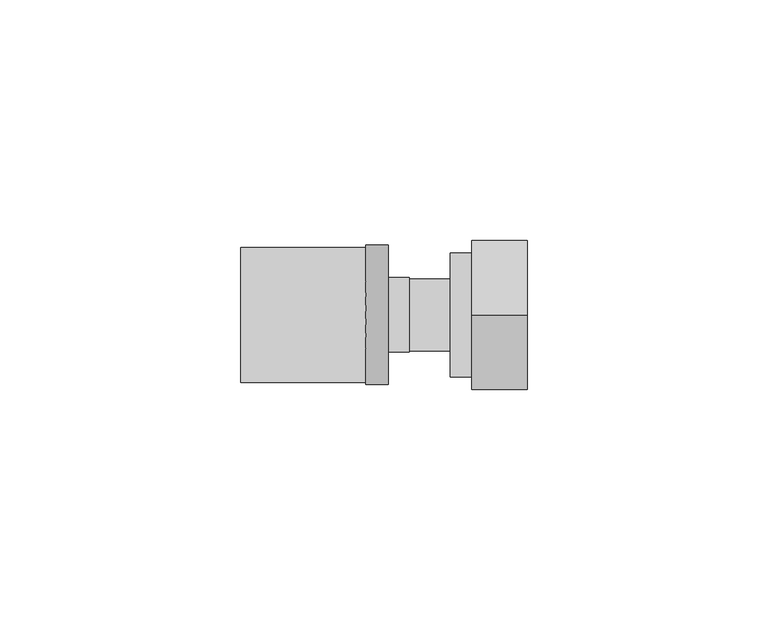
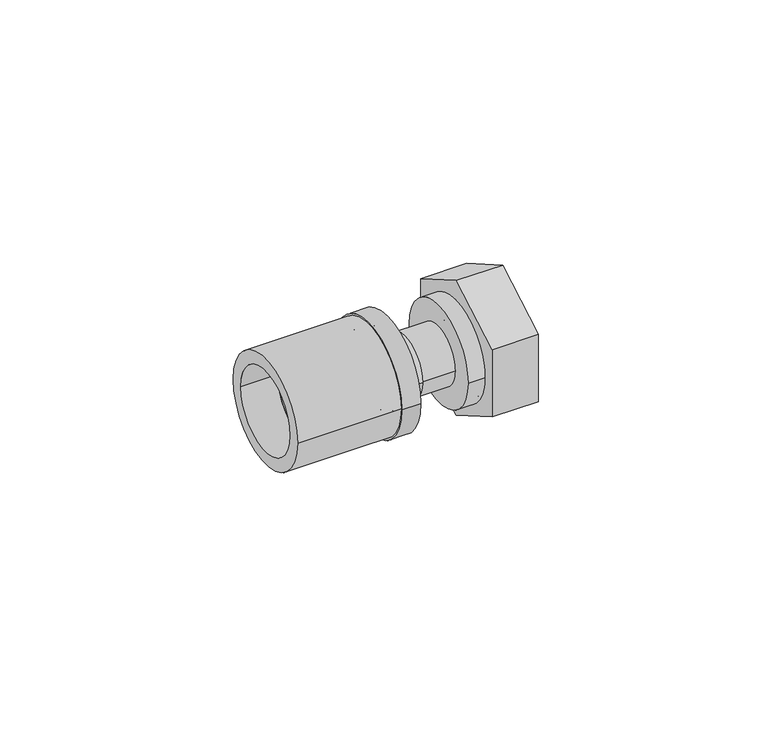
"""IFC4 building model written with IfcOpenShell, lengths in millimetres: pipe fitting geometry, FASTLOC_Adapter with union nut LX : FSL A union nut CZ."""

from ifc_helpers import new_model, si_unit, point, frame, origin, origin_2d, place, context, project, spatial, polyline, circle_curve, trimmed, segment, composite_curve, outline, extrude, source, transform, mapped, element, save
from ifc_brep_helpers import plane_surface, cylinder_surface, revolved_surface, advanced_brep


def pipe_fitting_d52baa13(model_context):
    return source(origin(), model_context, "Body", "SolidModel", [
        extrude(outline(composite_curve([segment(trimmed(circle_curve(origin_2d(), 14.0), [point((14.0, 0.0))], [point((-14.0, 0.0))], False, "CARTESIAN"), True, "CONTINUOUS"), segment(trimmed(circle_curve(origin_2d(), 14.0), [point((-14.0, 0.0))], [point((14.0, 0.0))], False, "CARTESIAN"), True, "CONTINUOUS")], self_intersect=False), holes=[composite_curve([segment(trimmed(circle_curve(origin_2d(), 10.7), [point((10.7, 0.0))], [point((-10.7, 0.0))], True, "CARTESIAN"), True, "CONTINUOUS"), segment(trimmed(circle_curve(origin_2d(), 10.7), [point((-10.7, 0.0))], [point((10.7, 0.0))], True, "CARTESIAN"), True, "CONTINUOUS")], self_intersect=False)]), frame((-35.0, 0.0, 0.0), z_axis=(1.0, 0.0, 0.0), x_axis=(0.0, 1.0, 0.0)), (0.0, 0.0, 1.0), 26.0),
        advanced_brep(
        [(-9.0, -14.5, 0.0), (-9.0, 14.5, 0.0), (-4.3, 14.5, 0.0), (-4.3, -14.5, 0.0), (-26.0, -11.85, 0.0), (-26.0, 11.85, 0.0), (-9.0, 11.85, 0.0), (-9.0, -11.85, 0.0), (-4.3, -10.15, 0.0), (-4.3, 10.15, 0.0), (-26.0, 10.15, 0.0), (-26.0, -10.15, 0.0)],
        [
            (0, 1, circle_curve(frame((-9.0, 0.0, 0.0), z_axis=(1.0, 0.0, 0.0), x_axis=(0.0, 1.0, 0.0)), 14.5)),
            (1, 2),
            (2, 3, circle_curve(frame((-4.3, 0.0, 0.0), z_axis=(-1.0, 0.0, 0.0), x_axis=(0.0, 1.0, 0.0)), 14.5)),
            (3, 0),
            (4, 5, circle_curve(frame((-26.0, 0.0, 0.0), z_axis=(1.0, 0.0, 0.0), x_axis=(0.0, 1.0, 0.0)), 11.85)),
            (5, 6),
            (6, 7, circle_curve(frame((-9.0, 0.0, 0.0), z_axis=(-1.0, 0.0, 0.0), x_axis=(0.0, 1.0, 0.0)), 11.85)),
            (7, 4),
            (8, 9, circle_curve(frame((-4.3, 0.0, 0.0), z_axis=(1.0, 0.0, 0.0), x_axis=(0.0, 1.0, 0.0)), 10.15)),
            (9, 10),
            (10, 11, circle_curve(frame((-26.0, 0.0, 0.0), z_axis=(-1.0, 0.0, 0.0), x_axis=(0.0, 1.0, 0.0)), 10.15)),
            (11, 8),
            (1, 0, circle_curve(frame((-9.0, 0.0, 0.0), z_axis=(1.0, 0.0, 0.0), x_axis=(0.0, -1.0, 0.0)), 14.5)),
            (3, 2, circle_curve(frame((-4.3, 0.0, 0.0), z_axis=(-1.0, 0.0, 0.0), x_axis=(0.0, -1.0, 0.0)), 14.5)),
            (6, 7, circle_curve(frame((-9.0, 0.0, 0.0), z_axis=(1.0, 0.0, 0.0), x_axis=(0.0, -1.0, 0.0)), 11.85)),
            (5, 4, circle_curve(frame((-26.0, 0.0, 0.0), z_axis=(1.0, 0.0, 0.0), x_axis=(0.0, -1.0, 0.0)), 11.85)),
            (10, 11, circle_curve(frame((-26.0, 0.0, 0.0), z_axis=(1.0, 0.0, 0.0), x_axis=(0.0, -1.0, 0.0)), 10.15)),
            (9, 8, circle_curve(frame((-4.3, 0.0, 0.0), z_axis=(1.0, 0.0, 0.0), x_axis=(0.0, -1.0, 0.0)), 10.15)),
        ],
        [
            cylinder_surface(frame((-4.3, 0.0, 0.0), z_axis=(-1.0, 0.0, 0.0), x_axis=(0.0, 1.0, 0.0)), 14.5),
            cylinder_surface(frame((-4.3, 0.0, 0.0), z_axis=(-1.0, 0.0, 0.0), x_axis=(0.0, 1.0, 0.0)), 11.85),
            revolved_surface(polyline([(-26.0, 10.15, 0.0), (-4.3, 10.15, 0.0)]), (-4.3, 0.0, 0.0), (-1.0, 0.0, 0.0)),
            cylinder_surface(frame((-4.3, 0.0, 0.0), z_axis=(-1.0, 0.0, 0.0), x_axis=(0.0, -1.0, 0.0)), 14.5),
            plane_surface(frame((-9.0, 0.0, 0.0), z_axis=(-1.0, 0.0, 0.0), x_axis=(0.0, -1.0, 0.0))),
            cylinder_surface(frame((-4.3, 0.0, 0.0), z_axis=(-1.0, 0.0, 0.0), x_axis=(0.0, -1.0, 0.0)), 11.85),
            plane_surface(frame((-26.0, 0.0, 0.0), z_axis=(-1.0, 0.0, 0.0), x_axis=(0.0, -1.0, 0.0))),
            revolved_surface(polyline([(-26.0, -10.15, 0.0), (-4.3, -10.15, 0.0)]), (-4.3, 0.0, 0.0), (-1.0, 0.0, 0.0)),
            plane_surface(frame((-4.3, 0.0, 0.0), z_axis=(1.0, 0.0, 0.0), x_axis=(0.0, -1.0, 0.0))),
        ],
        [
            (0, [[1, 2, 3, 4]]),
            (1, [[5, 6, 7, 8]]),
            (2, [[9, 10, 11, 12]]),
            (3, [[13, -4, 14, -2]]),
            (4, [[-13, -1], [15, -7]]),
            (5, [[16, -8, -15, -6]]),
            (6, [[-16, -5], [17, -11]]),
            (7, [[18, -12, -17, -10]]),
            (8, [[-14, -3], [-18, -9]]),
        ],
    ),
        advanced_brep(
        [(-9.0, 7.75, 0.0), (-9.0, -7.75, 0.0), (-27.0, -7.75, 0.0), (-27.0, 7.75, 0.0), (-6.3, 8.8, 0.0), (-6.3, -8.8, 0.0), (-9.0, -8.8, 0.0), (-9.0, 8.8, 0.0), (0.0, 7.75, 0.0), (0.0, -7.75, 0.0), (-6.3, -7.75, 0.0), (-6.3, 7.75, 0.0), (-27.0, 5.75, 0.0), (-27.0, -5.75, 0.0), (0.0, -5.75, 0.0), (0.0, 5.75, 0.0)],
        [
            (0, 1, circle_curve(frame((-9.0, 0.0, 0.0), z_axis=(-1.0, 0.0, 0.0), x_axis=(0.0, -1.0, 0.0)), 7.75)),
            (1, 2),
            (2, 3, circle_curve(frame((-27.0, 0.0, 0.0), z_axis=(1.0, 0.0, 0.0), x_axis=(0.0, -1.0, 0.0)), 7.75)),
            (3, 0),
            (4, 5, circle_curve(frame((-6.3, 0.0, 0.0), z_axis=(-1.0, 0.0, 0.0), x_axis=(0.0, -1.0, 0.0)), 8.8)),
            (5, 6),
            (6, 7, circle_curve(frame((-9.0, 0.0, 0.0), z_axis=(1.0, 0.0, 0.0), x_axis=(0.0, -1.0, 0.0)), 8.8)),
            (7, 4),
            (8, 9, circle_curve(frame((0.0, 0.0, 0.0), z_axis=(-1.0, 0.0, 0.0), x_axis=(0.0, -1.0, 0.0)), 7.75)),
            (9, 10),
            (10, 11, circle_curve(frame((-6.3, 0.0, 0.0), z_axis=(1.0, 0.0, 0.0), x_axis=(0.0, -1.0, 0.0)), 7.75)),
            (11, 8),
            (12, 13, circle_curve(frame((-27.0, 0.0, 0.0), z_axis=(-1.0, 0.0, 0.0), x_axis=(0.0, -1.0, 0.0)), 5.75)),
            (13, 14),
            (14, 15, circle_curve(frame((0.0, 0.0, 0.0), z_axis=(1.0, 0.0, 0.0), x_axis=(0.0, -1.0, 0.0)), 5.75)),
            (15, 12),
            (2, 3, circle_curve(frame((-27.0, 0.0, 0.0), z_axis=(-1.0, 0.0, 0.0), x_axis=(0.0, 1.0, 0.0)), 7.75)),
            (12, 13, circle_curve(frame((-27.0, 0.0, 0.0), z_axis=(1.0, 0.0, 0.0), x_axis=(0.0, 1.0, 0.0)), 5.75)),
            (1, 0, circle_curve(frame((-9.0, 0.0, 0.0), z_axis=(-1.0, 0.0, 0.0), x_axis=(0.0, 1.0, 0.0)), 7.75)),
            (6, 7, circle_curve(frame((-9.0, 0.0, 0.0), z_axis=(-1.0, 0.0, 0.0), x_axis=(0.0, 1.0, 0.0)), 8.8)),
            (5, 4, circle_curve(frame((-6.3, 0.0, 0.0), z_axis=(-1.0, 0.0, 0.0), x_axis=(0.0, 1.0, 0.0)), 8.8)),
            (10, 11, circle_curve(frame((-6.3, 0.0, 0.0), z_axis=(-1.0, 0.0, 0.0), x_axis=(0.0, 1.0, 0.0)), 7.75)),
            (9, 8, circle_curve(frame((0.0, 0.0, 0.0), z_axis=(-1.0, 0.0, 0.0), x_axis=(0.0, 1.0, 0.0)), 7.75)),
            (14, 15, circle_curve(frame((0.0, 0.0, 0.0), z_axis=(-1.0, 0.0, 0.0), x_axis=(0.0, 1.0, 0.0)), 5.75)),
        ],
        [
            cylinder_surface(frame((0.0, 0.0, 0.0), z_axis=(1.0, 0.0, 0.0), x_axis=(0.0, -1.0, 0.0)), 7.75),
            cylinder_surface(frame((0.0, 0.0, 0.0), z_axis=(1.0, 0.0, 0.0), x_axis=(0.0, -1.0, 0.0)), 8.8),
            revolved_surface(polyline([(0.0, -5.75, 0.0), (-27.0, -5.75, 0.0)]), (0.0, 0.0, 0.0), (1.0, 0.0, 0.0)),
            plane_surface(frame((-27.0, 0.0, 0.0), z_axis=(-1.0, 0.0, 0.0), x_axis=(0.0, 1.0, 0.0))),
            cylinder_surface(frame((0.0, 0.0, 0.0), z_axis=(1.0, 0.0, 0.0), x_axis=(0.0, 1.0, 0.0)), 7.75),
            plane_surface(frame((-9.0, 0.0, 0.0), z_axis=(-1.0, 0.0, 0.0), x_axis=(0.0, 1.0, 0.0))),
            cylinder_surface(frame((0.0, 0.0, 0.0), z_axis=(1.0, 0.0, 0.0), x_axis=(0.0, 1.0, 0.0)), 8.8),
            plane_surface(frame((-6.3, 0.0, 0.0), z_axis=(1.0, 0.0, 0.0), x_axis=(0.0, 1.0, 0.0))),
            plane_surface(frame((0.0, 0.0, 0.0), z_axis=(1.0, 0.0, 0.0), x_axis=(0.0, 1.0, 0.0))),
            revolved_surface(polyline([(0.0, 5.75, 0.0), (-27.0, 5.75, 0.0)]), (0.0, 0.0, 0.0), (1.0, 0.0, 0.0)),
        ],
        [
            (0, [[1, 2, 3, 4]]),
            (1, [[5, 6, 7, 8]]),
            (0, [[9, 10, 11, 12]]),
            (2, [[13, 14, 15, 16]]),
            (3, [[17, -3], [18, -13]]),
            (4, [[19, -4, -17, -2]]),
            (5, [[20, -7], [-19, -1]]),
            (6, [[21, -8, -20, -6]]),
            (7, [[-21, -5], [22, -11]]),
            (4, [[23, -12, -22, -10]]),
            (8, [[-23, -9], [24, -15]]),
            (9, [[-18, -16, -24, -14]]),
        ],
    ),
        extrude(outline(polyline([(0.0, -17.8978583), (-15.5, -8.9489292), (-15.5, 8.9489292), (0.0, 17.8978583), (15.5, 8.9489292), (15.5, -8.9489292), (0.0, -17.8978583)]), holes=[composite_curve([segment(trimmed(circle_curve(origin_2d(), 10.0), [point((-10.0, 0.0))], [point((10.0, 0.0))], True, "CARTESIAN"), True, "CONTINUOUS"), segment(trimmed(circle_curve(origin_2d(), 10.0), [point((10.0, 0.0))], [point((-10.0, 0.0))], True, "CARTESIAN"), True, "CONTINUOUS")], self_intersect=False)]), frame((13.0, 0.0, 0.0), z_axis=(1.0, 0.0, 0.0), x_axis=(0.0, 1.0, 0.0)), (0.0, 0.0, 1.0), 11.6),
        advanced_brep(
        [(24.6, 12.9, 0.0), (24.6, -12.9, 0.0), (8.6, -12.9, 0.0), (8.6, 12.9, 0.0), (12.1, 10.0, 0.0), (12.1, -10.0, 0.0), (24.6, -10.0, 0.0), (24.6, 10.0, 0.0), (8.6, 6.5, 0.0), (8.6, -6.5, 0.0), (12.1, -6.5, 0.0), (12.1, 6.5, 0.0)],
        [
            (0, 1, circle_curve(frame((24.6, 0.0, 0.0), z_axis=(-1.0, 0.0, 0.0), x_axis=(0.0, -1.0, 0.0)), 12.9)),
            (1, 2),
            (2, 3, circle_curve(frame((8.6, 0.0, 0.0), z_axis=(1.0, 0.0, 0.0), x_axis=(0.0, -1.0, 0.0)), 12.9)),
            (3, 0),
            (4, 5, circle_curve(frame((12.1, 0.0, 0.0), z_axis=(-1.0, 0.0, 0.0), x_axis=(0.0, -1.0, 0.0)), 10.0)),
            (5, 6),
            (6, 7, circle_curve(frame((24.6, 0.0, 0.0), z_axis=(1.0, 0.0, 0.0), x_axis=(0.0, -1.0, 0.0)), 10.0)),
            (7, 4),
            (8, 9, circle_curve(frame((8.6, 0.0, 0.0), z_axis=(-1.0, 0.0, 0.0), x_axis=(0.0, -1.0, 0.0)), 6.5)),
            (9, 10),
            (10, 11, circle_curve(frame((12.1, 0.0, 0.0), z_axis=(1.0, 0.0, 0.0), x_axis=(0.0, -1.0, 0.0)), 6.5)),
            (11, 8),
            (1, 0, circle_curve(frame((24.6, 0.0, 0.0), z_axis=(-1.0, 0.0, 0.0), x_axis=(0.0, 1.0, 0.0)), 12.9)),
            (3, 2, circle_curve(frame((8.6, 0.0, 0.0), z_axis=(1.0, 0.0, 0.0), x_axis=(0.0, 1.0, 0.0)), 12.9)),
            (6, 7, circle_curve(frame((24.6, 0.0, 0.0), z_axis=(-1.0, 0.0, 0.0), x_axis=(0.0, 1.0, 0.0)), 10.0)),
            (5, 4, circle_curve(frame((12.1, 0.0, 0.0), z_axis=(-1.0, 0.0, 0.0), x_axis=(0.0, 1.0, 0.0)), 10.0)),
            (10, 11, circle_curve(frame((12.1, 0.0, 0.0), z_axis=(-1.0, 0.0, 0.0), x_axis=(0.0, 1.0, 0.0)), 6.5)),
            (9, 8, circle_curve(frame((8.6, 0.0, 0.0), z_axis=(-1.0, 0.0, 0.0), x_axis=(0.0, 1.0, 0.0)), 6.5)),
        ],
        [
            cylinder_surface(frame((0.0, 0.0, 0.0), z_axis=(1.0, 0.0, 0.0), x_axis=(0.0, -1.0, 0.0)), 12.9),
            revolved_surface(polyline([(24.6, -10.0, 0.0), (12.1, -10.0, 0.0)]), (0.0, 0.0, 0.0), (1.0, 0.0, 0.0)),
            revolved_surface(polyline([(12.1, -6.5, 0.0), (8.6, -6.5, 0.0)]), (0.0, 0.0, 0.0), (1.0, 0.0, 0.0)),
            cylinder_surface(frame((0.0, 0.0, 0.0), z_axis=(1.0, 0.0, 0.0), x_axis=(0.0, 1.0, 0.0)), 12.9),
            plane_surface(frame((24.6, 0.0, 0.0), z_axis=(1.0, 0.0, 0.0), x_axis=(0.0, 1.0, 0.0))),
            revolved_surface(polyline([(24.6, 10.0, 0.0), (12.1, 10.0, 0.0)]), (0.0, 0.0, 0.0), (1.0, 0.0, 0.0)),
            plane_surface(frame((12.1, 0.0, 0.0), z_axis=(1.0, 0.0, 0.0), x_axis=(0.0, 1.0, 0.0))),
            revolved_surface(polyline([(12.1, 6.5, 0.0), (8.6, 6.5, 0.0)]), (0.0, 0.0, 0.0), (1.0, 0.0, 0.0)),
            plane_surface(frame((8.6, 0.0, 0.0), z_axis=(-1.0, 0.0, 0.0), x_axis=(0.0, 1.0, 0.0))),
        ],
        [
            (0, [[1, 2, 3, 4]]),
            (1, [[5, 6, 7, 8]]),
            (2, [[9, 10, 11, 12]]),
            (3, [[13, -4, 14, -2]]),
            (4, [[-13, -1], [15, -7]]),
            (5, [[16, -8, -15, -6]]),
            (6, [[-16, -5], [17, -11]]),
            (7, [[18, -12, -17, -10]]),
            (8, [[-14, -3], [-18, -9]]),
        ],
    ),
        advanced_brep(
        [(12.0, 7.5, 0.0), (12.0, -7.5, 0.0), (0.0, -7.5, 0.0), (0.0, 7.5, 0.0), (14.0, 11.6, 0.0), (14.0, -11.6, 0.0), (12.0, -11.6, 0.0), (12.0, 11.6, 0.0), (1.4730817, 5.75, 0.0), (1.4730817, -5.75, 0.0), (14.0, -5.75, 0.0), (14.0, 5.75, 0.0), (0.0, 3.5764556, 0.0), (0.0, -3.5764556, 0.0), (1.4730817, -3.5764556, 0.0), (1.4730817, 3.5764556, 0.0)],
        [
            (0, 1, circle_curve(frame((12.0, 0.0, 0.0), z_axis=(-1.0, 0.0, 0.0), x_axis=(0.0, -1.0, 0.0)), 7.5)),
            (1, 2),
            (2, 3, circle_curve(frame((0.0, 0.0, 0.0), z_axis=(1.0, 0.0, 0.0), x_axis=(0.0, -1.0, 0.0)), 7.5)),
            (3, 0),
            (4, 5, circle_curve(frame((14.0, 0.0, 0.0), z_axis=(-1.0, 0.0, 0.0), x_axis=(0.0, -1.0, 0.0)), 11.6)),
            (5, 6),
            (6, 7, circle_curve(frame((12.0, 0.0, 0.0), z_axis=(1.0, 0.0, 0.0), x_axis=(0.0, -1.0, 0.0)), 11.6)),
            (7, 4),
            (8, 9, circle_curve(frame((1.4730817, 0.0, 0.0), z_axis=(-1.0, 0.0, 0.0), x_axis=(0.0, -1.0, 0.0)), 5.75)),
            (9, 10),
            (10, 11, circle_curve(frame((14.0, 0.0, 0.0), z_axis=(1.0, 0.0, 0.0), x_axis=(0.0, -1.0, 0.0)), 5.75)),
            (11, 8),
            (12, 13, circle_curve(frame((0.0, 0.0, 0.0), z_axis=(-1.0, 0.0, 0.0), x_axis=(0.0, -1.0, 0.0)), 3.5764556)),
            (13, 14),
            (14, 15, circle_curve(frame((1.4730817, 0.0, 0.0), z_axis=(1.0, 0.0, 0.0), x_axis=(0.0, -1.0, 0.0)), 3.5764556)),
            (15, 12),
            (2, 3, circle_curve(frame((0.0, 0.0, 0.0), z_axis=(-1.0, 0.0, 0.0), x_axis=(0.0, 1.0, 0.0)), 7.5)),
            (12, 13, circle_curve(frame((0.0, 0.0, 0.0), z_axis=(1.0, 0.0, 0.0), x_axis=(0.0, 1.0, 0.0)), 3.5764556)),
            (1, 0, circle_curve(frame((12.0, 0.0, 0.0), z_axis=(-1.0, 0.0, 0.0), x_axis=(0.0, 1.0, 0.0)), 7.5)),
            (6, 7, circle_curve(frame((12.0, 0.0, 0.0), z_axis=(-1.0, 0.0, 0.0), x_axis=(0.0, 1.0, 0.0)), 11.6)),
            (5, 4, circle_curve(frame((14.0, 0.0, 0.0), z_axis=(-1.0, 0.0, 0.0), x_axis=(0.0, 1.0, 0.0)), 11.6)),
            (10, 11, circle_curve(frame((14.0, 0.0, 0.0), z_axis=(-1.0, 0.0, 0.0), x_axis=(0.0, 1.0, 0.0)), 5.75)),
            (9, 8, circle_curve(frame((1.4730817, 0.0, 0.0), z_axis=(-1.0, 0.0, 0.0), x_axis=(0.0, 1.0, 0.0)), 5.75)),
            (14, 15, circle_curve(frame((1.4730817, 0.0, 0.0), z_axis=(-1.0, 0.0, 0.0), x_axis=(0.0, 1.0, 0.0)), 3.5764556)),
        ],
        [
            cylinder_surface(frame((0.0, 0.0, 0.0), z_axis=(1.0, 0.0, 0.0), x_axis=(0.0, -1.0, 0.0)), 7.5),
            cylinder_surface(frame((0.0, 0.0, 0.0), z_axis=(1.0, 0.0, 0.0), x_axis=(0.0, -1.0, 0.0)), 11.6),
            revolved_surface(polyline([(14.0, -5.75, 0.0), (1.4730817, -5.75, 0.0)]), (0.0, 0.0, 0.0), (1.0, 0.0, 0.0)),
            revolved_surface(polyline([(1.4730817, -3.5764556, 0.0), (0.0, -3.5764556, 0.0)]), (0.0, 0.0, 0.0), (1.0, 0.0, 0.0)),
            plane_surface(frame((0.0, 0.0, 0.0), z_axis=(-1.0, 0.0, 0.0), x_axis=(0.0, 1.0, 0.0))),
            cylinder_surface(frame((0.0, 0.0, 0.0), z_axis=(1.0, 0.0, 0.0), x_axis=(0.0, 1.0, 0.0)), 7.5),
            plane_surface(frame((12.0, 0.0, 0.0), z_axis=(-1.0, 0.0, 0.0), x_axis=(0.0, 1.0, 0.0))),
            cylinder_surface(frame((0.0, 0.0, 0.0), z_axis=(1.0, 0.0, 0.0), x_axis=(0.0, 1.0, 0.0)), 11.6),
            plane_surface(frame((14.0, 0.0, 0.0), z_axis=(1.0, 0.0, 0.0), x_axis=(0.0, 1.0, 0.0))),
            revolved_surface(polyline([(14.0, 5.75, 0.0), (1.4730817, 5.75, 0.0)]), (0.0, 0.0, 0.0), (1.0, 0.0, 0.0)),
            plane_surface(frame((1.4730817, 0.0, 0.0), z_axis=(1.0, 0.0, 0.0), x_axis=(0.0, 1.0, 0.0))),
            revolved_surface(polyline([(1.4730817, 3.5764556, 0.0), (0.0, 3.5764556, 0.0)]), (0.0, 0.0, 0.0), (1.0, 0.0, 0.0)),
        ],
        [
            (0, [[1, 2, 3, 4]]),
            (1, [[5, 6, 7, 8]]),
            (2, [[9, 10, 11, 12]]),
            (3, [[13, 14, 15, 16]]),
            (4, [[17, -3], [18, -13]]),
            (5, [[19, -4, -17, -2]]),
            (6, [[20, -7], [-19, -1]]),
            (7, [[21, -8, -20, -6]]),
            (8, [[-21, -5], [22, -11]]),
            (9, [[23, -12, -22, -10]]),
            (10, [[-23, -9], [24, -15]]),
            (11, [[-18, -16, -24, -14]]),
        ],
    ),
    ])


if __name__ == "__main__":
    model = new_model("IFC4")
    model_context = context("Model", 3, world=origin())
    ifc_project = project(units=[si_unit("LENGTHUNIT", "METRE", prefix="MILLI")], contexts=[model_context])
    site = spatial("IfcSite", under=ifc_project)
    building = spatial("IfcBuilding", under=site)
    placement = place(None, origin())
    pipe_fitting_shape = pipe_fitting_d52baa13(model_context)
    element("IfcPipeFitting", 1, ObjectType="FASTLOC_Adapter with union nut LX : FSL A union nut CZ", at=placement, inside=building, context=model_context, shape_type="MappedRepresentation", body=[
        mapped(pipe_fitting_shape, transform((0.0, 0.0, 0.0), x_axis=(1.0, 0.0, 0.0), y_axis=(0.0, 1.0, 0.0), z_axis=(0.0, 0.0, 1.0))),
    ])
    save(model, "model.ifc")
